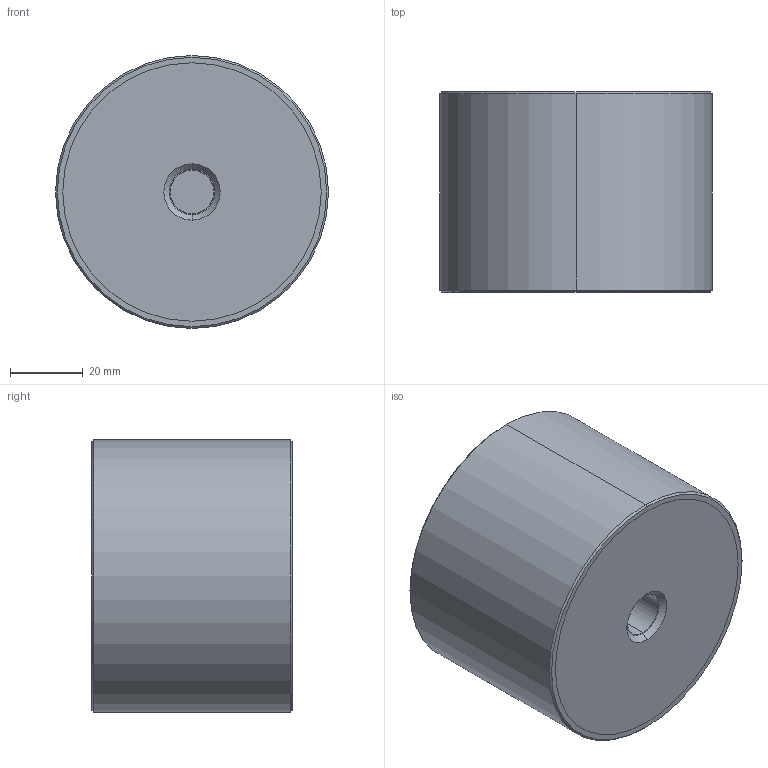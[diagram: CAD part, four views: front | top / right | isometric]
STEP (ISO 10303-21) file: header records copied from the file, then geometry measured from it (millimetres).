
FILE_DESCRIPTION (( 'STEP AP203' ), '1' );
FILE_NAME ('61080.W0753.step', '2018-07-16T20:46:45', ( '' ), ( '' ), 'SwSTEP 2.0', 'SolidWorks 2017', '' );
FILE_SCHEMA (( 'CONFIG_CONTROL_DESIGN' ));
Length unit declared in the file: millimetre
Products named in the file (4): Part2_61080.W0753; Part1_61080.W0753; 61080.W0753; Part3_61080.W0753
Assembly tree (3 placements, depth 2):
  61080.W0753
    Part1_61080.W0753
    Part2_61080.W0753
    Part3_61080.W0753
Bounding box: 75 x 55 x 75 mm (x, y, z)
Volume: 240085.3 mm3; surface area: 39186.7 mm2
Topology: 3 solids, 3 shells, 32 faces, 62 edges, 40 vertices
Faces by surface type: cylinder 14, plane 10, cone 8
Entity records: 1256 total; most frequent: DIRECTION 178, CARTESIAN_POINT 140, ORIENTED_EDGE 124, AXIS2_PLACEMENT_3D 78, EDGE_CURVE 62, CIRCLE 40, EDGE_LOOP 40, VERTEX_POINT 40
